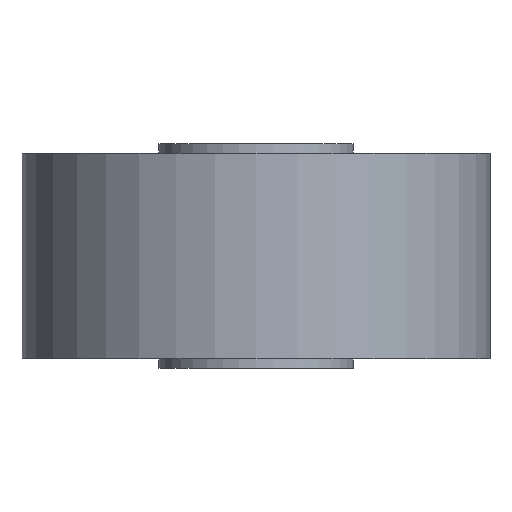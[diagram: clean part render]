
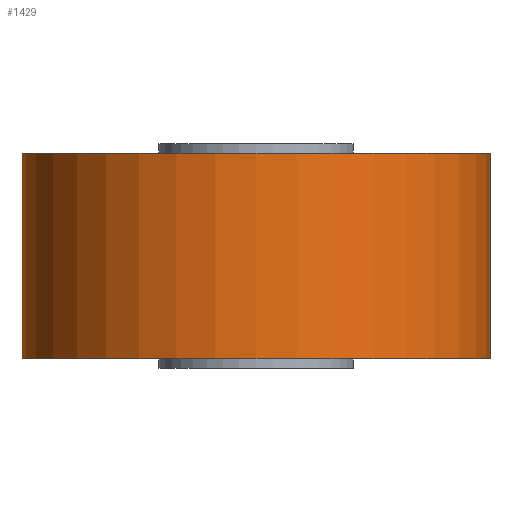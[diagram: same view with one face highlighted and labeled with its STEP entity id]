
A CAD part, front view. The second image highlights one B-rep face of the part: STEP entity #1429.
In plain terms, the highlighted cylindrical face has radius 12.5 mm (diameter 25 mm), a full revolution.
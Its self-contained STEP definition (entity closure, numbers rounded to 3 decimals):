
#53=B_SPLINE_CURVE_WITH_KNOTS('',3,(#2313,#2314,#2315,#2316,#2317,#2318,
#2319,#2320,#2321,#2322,#2323,#2324,#2325,#2326,#2327,#2328,#2329,#2330,
#2331),.UNSPECIFIED.,.F.,.F.,(4,2,2,2,3,2,2,2,4),(2.288,2.479,
2.669,2.86,3.051,3.242,3.432,
3.623,3.814),.UNSPECIFIED.);
#54=B_SPLINE_CURVE_WITH_KNOTS('',3,(#2332,#2333,#2334,#2335,#2336,#2337,
#2338,#2339,#2340,#2341,#2342,#2343,#2344,#2345,#2346,#2347,#2348,#2349),
 .UNSPECIFIED.,.F.,.F.,(4,2,2,2,2,2,2,2,4),(0.763,0.953,
1.144,1.335,1.525,1.716,1.907,
2.098,2.288),.UNSPECIFIED.);
#57=FACE_BOUND('',#208,.T.);
#117=FACE_OUTER_BOUND('',#207,.T.);
#207=EDGE_LOOP('',(#974,#975,#976,#977,#978,#979));
#208=EDGE_LOOP('',(#980,#981));
#312=LINE('',#2307,#381);
#381=VECTOR('',#1793,12.5);
#456=CIRCLE('',#1544,12.5);
#457=CIRCLE('',#1545,12.5);
#458=CIRCLE('',#1547,12.5);
#459=CIRCLE('',#1548,12.5);
#591=VERTEX_POINT('',#2301);
#592=VERTEX_POINT('',#2302);
#593=VERTEX_POINT('',#2306);
#594=VERTEX_POINT('',#2308);
#595=VERTEX_POINT('',#2311);
#596=VERTEX_POINT('',#2312);
#747=EDGE_CURVE('',#591,#592,#456,.T.);
#748=EDGE_CURVE('',#592,#591,#457,.T.);
#749=EDGE_CURVE('',#592,#593,#312,.T.);
#750=EDGE_CURVE('',#593,#594,#458,.T.);
#751=EDGE_CURVE('',#594,#593,#459,.T.);
#752=EDGE_CURVE('',#595,#596,#53,.T.);
#753=EDGE_CURVE('',#596,#595,#54,.T.);
#974=ORIENTED_EDGE('',*,*,#747,.F.);
#975=ORIENTED_EDGE('',*,*,#748,.F.);
#976=ORIENTED_EDGE('',*,*,#749,.T.);
#977=ORIENTED_EDGE('',*,*,#750,.T.);
#978=ORIENTED_EDGE('',*,*,#751,.T.);
#979=ORIENTED_EDGE('',*,*,#749,.F.);
#980=ORIENTED_EDGE('',*,*,#752,.T.);
#981=ORIENTED_EDGE('',*,*,#753,.T.);
#1393=CYLINDRICAL_SURFACE('',#1546,12.5);
#1429=ADVANCED_FACE('',(#117,#57),#1393,.T.);
#1544=AXIS2_PLACEMENT_3D('',#2303,#1787,#1788);
#1545=AXIS2_PLACEMENT_3D('',#2304,#1789,#1790);
#1546=AXIS2_PLACEMENT_3D('',#2305,#1791,#1792);
#1547=AXIS2_PLACEMENT_3D('',#2309,#1794,#1795);
#1548=AXIS2_PLACEMENT_3D('',#2310,#1796,#1797);
#1787=DIRECTION('center_axis',(0.,0.,1.));
#1788=DIRECTION('ref_axis',(1.,0.,0.));
#1789=DIRECTION('center_axis',(0.,0.,1.));
#1790=DIRECTION('ref_axis',(1.,0.,0.));
#1791=DIRECTION('center_axis',(0.,0.,1.));
#1792=DIRECTION('ref_axis',(1.,0.,0.));
#1793=DIRECTION('',(0.,0.,-1.));
#1794=DIRECTION('center_axis',(0.,0.,1.));
#1795=DIRECTION('ref_axis',(1.,0.,0.));
#1796=DIRECTION('center_axis',(0.,0.,1.));
#1797=DIRECTION('ref_axis',(1.,0.,0.));
#2301=CARTESIAN_POINT('',(12.5,0.,11.5));
#2302=CARTESIAN_POINT('',(-12.5,0.,11.5));
#2303=CARTESIAN_POINT('Origin',(0.,0.,11.5));
#2304=CARTESIAN_POINT('Origin',(0.,0.,11.5));
#2305=CARTESIAN_POINT('Origin',(0.,0.,6.));
#2306=CARTESIAN_POINT('',(-12.5,0.,0.5));
#2307=CARTESIAN_POINT('',(-12.5,0.,6.));
#2308=CARTESIAN_POINT('',(12.5,0.,0.5));
#2309=CARTESIAN_POINT('Origin',(0.,0.,0.5));
#2310=CARTESIAN_POINT('Origin',(0.,0.,0.5));
#2311=CARTESIAN_POINT('',(0.,12.5,1.));
#2312=CARTESIAN_POINT('',(0.,12.5,11.));
#2313=CARTESIAN_POINT('Ctrl Pts',(0.,12.5,1.));
#2314=CARTESIAN_POINT('Ctrl Pts',(0.635,12.5,1.));
#2315=CARTESIAN_POINT('Ctrl Pts',(1.308,12.447,1.128));
#2316=CARTESIAN_POINT('Ctrl Pts',(2.538,12.255,1.641));
#2317=CARTESIAN_POINT('Ctrl Pts',(3.096,12.119,2.025));
#2318=CARTESIAN_POINT('Ctrl Pts',(3.976,11.86,2.905));
#2319=CARTESIAN_POINT('Ctrl Pts',(4.359,11.719,3.462));
#2320=CARTESIAN_POINT('Ctrl Pts',(4.871,11.515,4.691));
#2321=CARTESIAN_POINT('Ctrl Pts',(5.,11.456,5.364));
#2322=CARTESIAN_POINT('Ctrl Pts',(5.,11.456,6.));
#2323=CARTESIAN_POINT('Ctrl Pts',(5.,11.456,6.636));
#2324=CARTESIAN_POINT('Ctrl Pts',(4.871,11.515,7.309));
#2325=CARTESIAN_POINT('Ctrl Pts',(4.359,11.719,8.538));
#2326=CARTESIAN_POINT('Ctrl Pts',(3.976,11.86,9.095));
#2327=CARTESIAN_POINT('Ctrl Pts',(3.096,12.119,9.975));
#2328=CARTESIAN_POINT('Ctrl Pts',(2.538,12.255,10.359));
#2329=CARTESIAN_POINT('Ctrl Pts',(1.308,12.447,10.872));
#2330=CARTESIAN_POINT('Ctrl Pts',(0.635,12.5,11.));
#2331=CARTESIAN_POINT('Ctrl Pts',(0.,12.5,11.));
#2332=CARTESIAN_POINT('Ctrl Pts',(0.,12.5,11.));
#2333=CARTESIAN_POINT('Ctrl Pts',(-0.635,12.5,11.));
#2334=CARTESIAN_POINT('Ctrl Pts',(-1.308,12.447,10.872));
#2335=CARTESIAN_POINT('Ctrl Pts',(-2.538,12.255,10.359));
#2336=CARTESIAN_POINT('Ctrl Pts',(-3.096,12.119,9.975));
#2337=CARTESIAN_POINT('Ctrl Pts',(-3.976,11.86,9.095));
#2338=CARTESIAN_POINT('Ctrl Pts',(-4.359,11.719,8.538));
#2339=CARTESIAN_POINT('Ctrl Pts',(-4.871,11.515,7.309));
#2340=CARTESIAN_POINT('Ctrl Pts',(-5.,11.456,6.636));
#2341=CARTESIAN_POINT('Ctrl Pts',(-5.,11.456,5.364));
#2342=CARTESIAN_POINT('Ctrl Pts',(-4.871,11.515,4.691));
#2343=CARTESIAN_POINT('Ctrl Pts',(-4.359,11.719,3.462));
#2344=CARTESIAN_POINT('Ctrl Pts',(-3.976,11.86,2.905));
#2345=CARTESIAN_POINT('Ctrl Pts',(-3.096,12.119,2.025));
#2346=CARTESIAN_POINT('Ctrl Pts',(-2.538,12.255,1.641));
#2347=CARTESIAN_POINT('Ctrl Pts',(-1.308,12.447,1.128));
#2348=CARTESIAN_POINT('Ctrl Pts',(-0.635,12.5,1.));
#2349=CARTESIAN_POINT('Ctrl Pts',(0.,12.5,1.));
